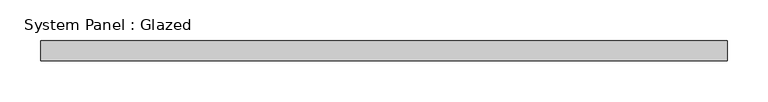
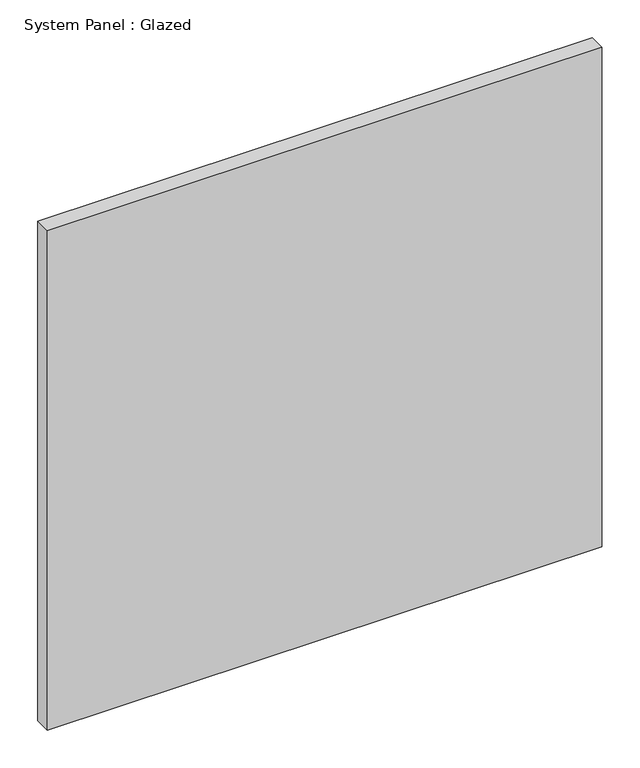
"""IFC4 building model written with IfcOpenShell, lengths in millimetres: plate geometry, System Panel : Glazed."""

from ifc_helpers import new_model, si_unit, origin, origin_with_axes, place, context, project, spatial, polyline, outline, extrude, source, transform, mapped, element, save


def system_panel_glazed_8a160abd(model_context):
    return source(origin(), model_context, "Body", "SweptSolid", [
        extrude(outline(polyline([(422.8955447, -72.5), (-422.8955447, -72.5), (-422.8955447, -47.5), (422.8955447, -47.5), (422.8955447, -72.5)])), origin_with_axes(), (0.0, 0.0, 1.0), 805.0),
    ])


if __name__ == "__main__":
    model = new_model("IFC4")
    model_context = context("Model", 3, world=origin())
    ifc_project = project(units=[si_unit("LENGTHUNIT", "METRE", prefix="MILLI")], contexts=[model_context])
    site = spatial("IfcSite", under=ifc_project)
    building = spatial("IfcBuilding", under=site)
    placement = place(None, origin())
    system_panel_glazed_shape = system_panel_glazed_8a160abd(model_context)
    element("IfcPlate", 1, ObjectType="System Panel : Glazed", at=placement, inside=building, context=model_context, shape_type="MappedRepresentation", body=[
        mapped(system_panel_glazed_shape, transform((0.0, 0.0, 0.0), x_axis=(1.0, 0.0, 0.0), y_axis=(0.0, 1.0, 0.0), z_axis=(0.0, 0.0, 1.0))),
    ])
    save(model, "model.ifc")
